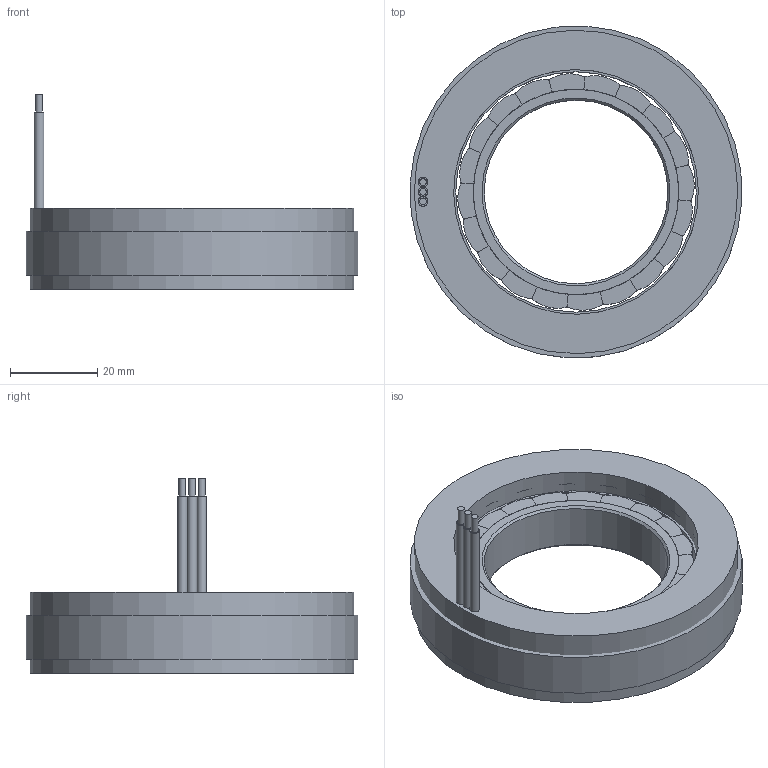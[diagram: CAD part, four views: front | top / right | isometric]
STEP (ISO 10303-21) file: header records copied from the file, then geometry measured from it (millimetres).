
FILE_DESCRIPTION (( 'STEP AP214' ), '1' );
FILE_NAME ('7608萇儂.STEP', '2024-01-17T05:48:30', ( '' ), ( '' ), 'SwSTEP 2.0', 'SolidWorks 2022', '' );
FILE_SCHEMA (( 'AUTOMOTIVE_DESIGN' ));
Length unit declared in the file: millimetre
Products named in the file (1): 7608萇儂
Bounding box: 75.89 x 75.89 x 44.6 mm (x, y, z)
Volume: 61124.2 mm3; surface area: 45384.1 mm2
Topology: 45 solids, 45 shells, 666 faces, 1711 edges, 1141 vertices
Faces by surface type: plane 370, cylinder 294, cone 2
Full cylindrical faces by diameter (mm): 1.55 x6, 2.2 x3, 42 x1, 47 x1, 55 x1, 56 x1, 72 x1, 74 x1, 76 x1
Entity records: 28100 total; most frequent: DIRECTION 3614, CARTESIAN_POINT 3495, ORIENTED_EDGE 3380, EDGE_CURVE 1690, AXIS2_PLACEMENT_3D 1257, VERTEX_POINT 1138, LINE 1100, VECTOR 1100
